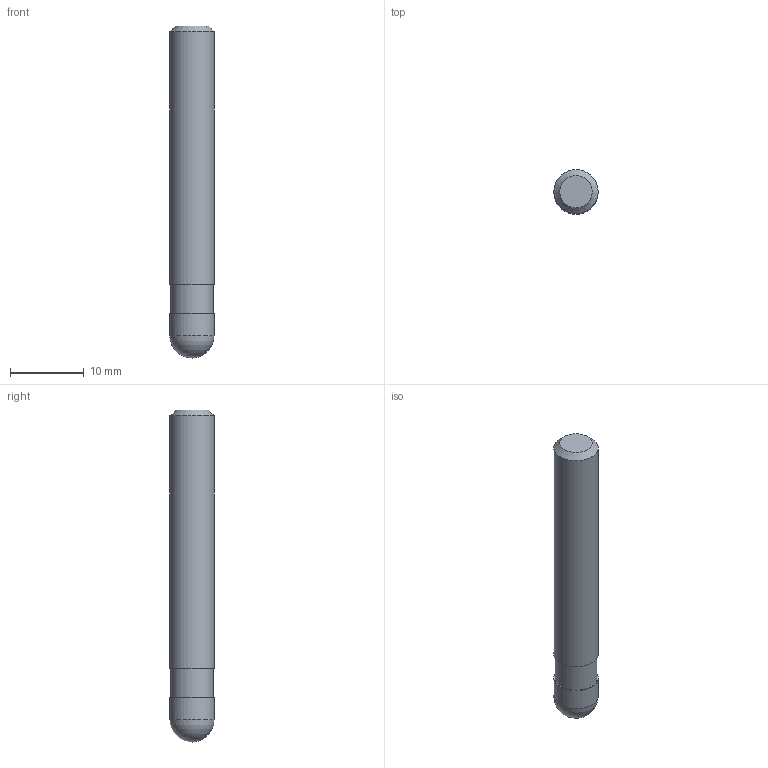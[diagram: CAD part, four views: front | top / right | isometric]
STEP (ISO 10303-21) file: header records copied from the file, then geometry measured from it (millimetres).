
FILE_DESCRIPTION((''),'2;1');
FILE_NAME('C:\Users\nsx150\AppData\Local\Temp\Mastercam 2021\QT8KEW0Y7J\TEMP.step','2021-04-23T11:22:07',(''),(''),'STEP Write','Mastercam 2021 ... CNC Software, Inc.','');
FILE_SCHEMA(('AUTOMOTIVE_DESIGN'));
Length unit declared in the file: millimetre
Products named in the file (1): None
Bounding box: 6 x 6 x 45 mm (x, y, z)
Volume: 1227.5 mm3; surface area: 919.6 mm2
Topology: 2 solids, 2 shells, 9 faces, 13 edges, 8 vertices
Faces by surface type: plane 4, cylinder 3, sphere 1, cone 1
Full cylindrical faces by diameter (mm): 5.7 x1, 6 x2
Entity records: 211 total; most frequent: DIRECTION 36, CARTESIAN_POINT 25, AXIS2_PLACEMENT_3D 18, ORIENTED_EDGE 14, EDGE_LOOP 14, STYLED_ITEM 12, ADVANCED_FACE 9, FACE_BOUND 8
